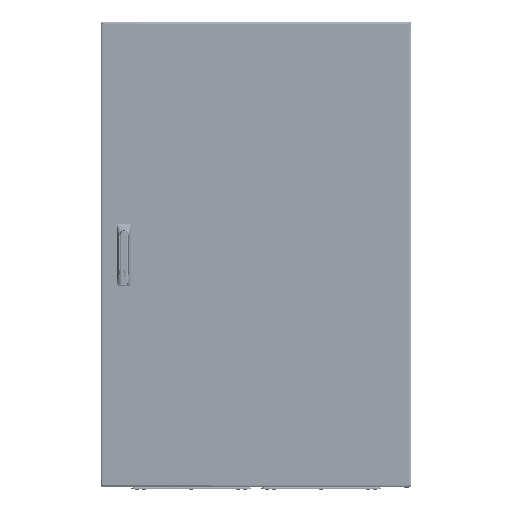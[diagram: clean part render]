
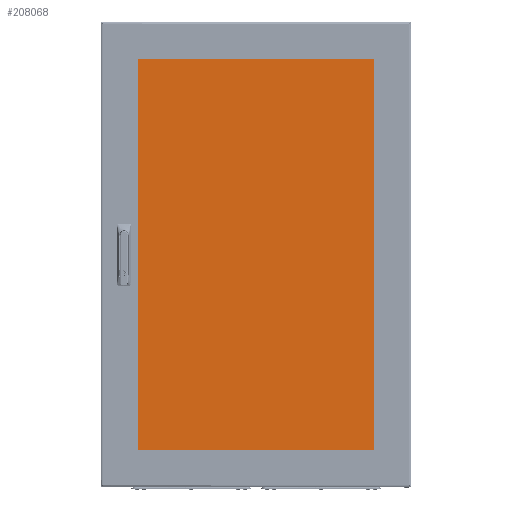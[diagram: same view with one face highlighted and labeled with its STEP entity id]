
A CAD part, top view. The second image highlights one B-rep face of the part: STEP entity #208068.
In plain terms, the highlighted planar face has unit normal (0, 0, 1).
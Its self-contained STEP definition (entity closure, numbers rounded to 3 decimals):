
#3568 = CARTESIAN_POINT ( 'NONE',  ( -315., -514., 2. ) ) ;
#5997 = EDGE_CURVE ( 'NONE', #195524, #25133, #163772, .T. ) ;
#11563 = ORIENTED_EDGE ( 'NONE', *, *, #84690, .T. ) ;
#25133 = VERTEX_POINT ( 'NONE', #180705 ) ;
#25761 = CARTESIAN_POINT ( 'NONE',  ( -314., 514., 2. ) ) ;
#30550 = ORIENTED_EDGE ( 'NONE', *, *, #54759, .T. ) ;
#47065 = EDGE_LOOP ( 'NONE', ( #129276, #231343, #228553, #197898, #135520, #150367, #30550, #11563 ) ) ;
#47203 = CARTESIAN_POINT ( 'NONE',  ( 315., -515., 2. ) ) ;
#52280 = CARTESIAN_POINT ( 'NONE',  ( -314., 515., 2. ) ) ;
#54759 = EDGE_CURVE ( 'NONE', #215071, #74633, #218915, .T. ) ;
#57038 = CARTESIAN_POINT ( 'NONE',  ( 315., 514., 2. ) ) ;
#58361 = DIRECTION ( 'NONE',  ( 0., 0., 1. ) ) ;
#59627 = DIRECTION ( 'NONE',  ( 1., 0., 0. ) ) ;
#60904 = CARTESIAN_POINT ( 'NONE',  ( -314., -514., 2. ) ) ;
#64459 = EDGE_CURVE ( 'NONE', #198103, #215071, #79043, .T. ) ;
#71279 = CARTESIAN_POINT ( 'NONE',  ( 315., -515., 2. ) ) ;
#74633 = VERTEX_POINT ( 'NONE', #52280 ) ;
#76423 = CIRCLE ( 'NONE', #96898, 1. ) ;
#79043 = CIRCLE ( 'NONE', #119943, 1. ) ;
#79088 = CARTESIAN_POINT ( 'NONE',  ( -314., -515., 2. ) ) ;
#84690 = EDGE_CURVE ( 'NONE', #74633, #130330, #231498, .T. ) ;
#96898 = AXIS2_PLACEMENT_3D ( 'NONE', #60904, #58361, #59627 ) ;
#97151 = FACE_OUTER_BOUND ( 'NONE', #47065, .T. ) ;
#97338 = DIRECTION ( 'NONE',  ( 0., 0., 1. ) ) ;
#103799 = DIRECTION ( 'NONE',  ( 0., 0., 1. ) ) ;
#111112 = CARTESIAN_POINT ( 'NONE',  ( 314., 514., 2. ) ) ;
#112015 = VECTOR ( 'NONE', #208370, 1000. ) ;
#119943 = AXIS2_PLACEMENT_3D ( 'NONE', #111112, #189177, #248064 ) ;
#122929 = DIRECTION ( 'NONE',  ( -1., 0., 0. ) ) ;
#128928 = AXIS2_PLACEMENT_3D ( 'NONE', #213570, #234025, #249474 ) ;
#129276 = ORIENTED_EDGE ( 'NONE', *, *, #172054, .T. ) ;
#130330 = VERTEX_POINT ( 'NONE', #250277 ) ;
#135520 = ORIENTED_EDGE ( 'NONE', *, *, #200135, .T. ) ;
#147452 = VECTOR ( 'NONE', #200464, 1000. ) ;
#150367 = ORIENTED_EDGE ( 'NONE', *, *, #64459, .T. ) ;
#153614 = CARTESIAN_POINT ( 'NONE',  ( 314., -514., 2. ) ) ;
#158840 = CARTESIAN_POINT ( 'NONE',  ( 315., 515., 2. ) ) ;
#159749 = VERTEX_POINT ( 'NONE', #3568 ) ;
#160962 = CARTESIAN_POINT ( 'NONE',  ( 314., -515., 2. ) ) ;
#161913 = AXIS2_PLACEMENT_3D ( 'NONE', #25761, #103799, #170176 ) ;
#163772 = CIRCLE ( 'NONE', #180200, 1. ) ;
#167246 = DIRECTION ( 'NONE',  ( 0., 1., 0. ) ) ;
#170176 = DIRECTION ( 'NONE',  ( 1., 0., 0. ) ) ;
#172054 = EDGE_CURVE ( 'NONE', #130330, #159749, #222156, .T. ) ;
#180200 = AXIS2_PLACEMENT_3D ( 'NONE', #153614, #97338, #252153 ) ;
#180705 = CARTESIAN_POINT ( 'NONE',  ( 315., -514., 2. ) ) ;
#188699 = EDGE_CURVE ( 'NONE', #159749, #194457, #76423, .T. ) ;
#189177 = DIRECTION ( 'NONE',  ( 0., 0., 1. ) ) ;
#194457 = VERTEX_POINT ( 'NONE', #79088 ) ;
#195524 = VERTEX_POINT ( 'NONE', #160962 ) ;
#197898 = ORIENTED_EDGE ( 'NONE', *, *, #5997, .T. ) ;
#198103 = VERTEX_POINT ( 'NONE', #57038 ) ;
#200135 = EDGE_CURVE ( 'NONE', #25133, #198103, #203165, .T. ) ;
#200464 = DIRECTION ( 'NONE',  ( 0., -1., 0. ) ) ;
#203165 = LINE ( 'NONE', #71279, #222126 ) ;
#208068 = ADVANCED_FACE ( 'NONE', ( #97151 ), #230243, .T. ) ;
#208370 = DIRECTION ( 'NONE',  ( 1., 0., 0. ) ) ;
#213570 = CARTESIAN_POINT ( 'NONE',  ( 0., 0., 2. ) ) ;
#215071 = VERTEX_POINT ( 'NONE', #239896 ) ;
#218915 = LINE ( 'NONE', #158840, #227553 ) ;
#222126 = VECTOR ( 'NONE', #167246, 1000. ) ;
#222156 = LINE ( 'NONE', #242620, #147452 ) ;
#227553 = VECTOR ( 'NONE', #122929, 1000. ) ;
#228553 = ORIENTED_EDGE ( 'NONE', *, *, #232928, .T. ) ;
#230243 = PLANE ( 'NONE',  #128928 ) ;
#231343 = ORIENTED_EDGE ( 'NONE', *, *, #188699, .T. ) ;
#231498 = CIRCLE ( 'NONE', #161913, 1. ) ;
#232928 = EDGE_CURVE ( 'NONE', #194457, #195524, #241718, .T. ) ;
#234025 = DIRECTION ( 'NONE',  ( 0., 0., 1. ) ) ;
#239896 = CARTESIAN_POINT ( 'NONE',  ( 314., 515., 2. ) ) ;
#241718 = LINE ( 'NONE', #47203, #112015 ) ;
#242620 = CARTESIAN_POINT ( 'NONE',  ( -315., -515., 2. ) ) ;
#248064 = DIRECTION ( 'NONE',  ( 1., 0., 0. ) ) ;
#249474 = DIRECTION ( 'NONE',  ( 1., 0., 0. ) ) ;
#250277 = CARTESIAN_POINT ( 'NONE',  ( -315., 514., 2. ) ) ;
#252153 = DIRECTION ( 'NONE',  ( 1., 0., 0. ) ) ;
